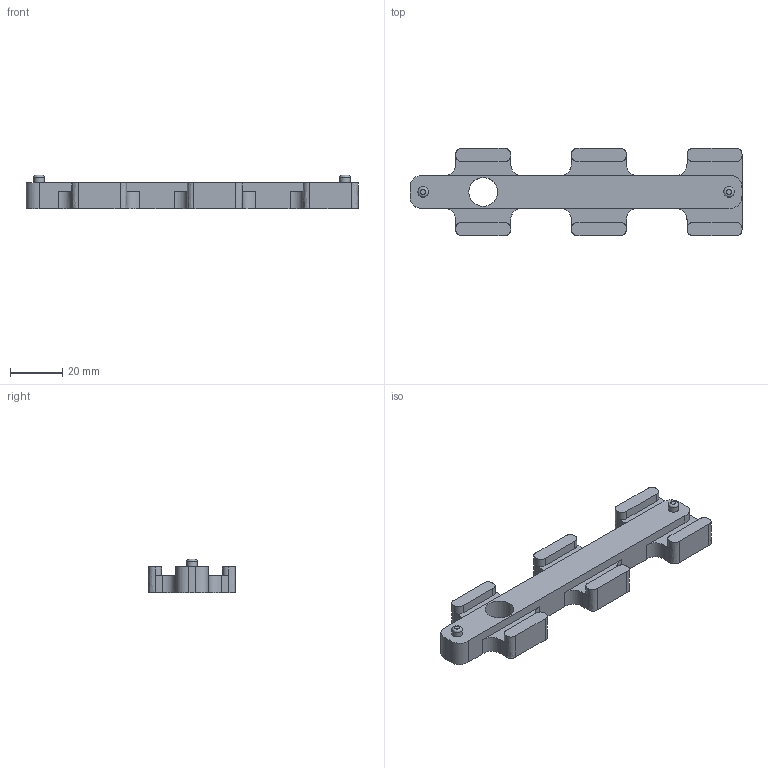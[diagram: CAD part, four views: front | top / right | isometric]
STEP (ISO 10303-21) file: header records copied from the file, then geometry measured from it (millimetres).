
FILE_DESCRIPTION(/* description */ ('STEP AP242 Edition 2','CAx-IF Rec.Pracs.---Representation and Presentation of Product Manufacturing Information (PMI)---4.0---2014-10-13','CAx-IF Rec.Pracs.---3D Tessellated Geometry---0.4---2014-09-14','2;1','CAx-IF Rec.Pracs.---User Defined Attributes---1.5---2016-08-15'),/* implementation_level */ '2;1');
FILE_NAME(/* name */ 'Part Studio 1 - FrontJig',/* time_stamp */ '2026-05-25T22:13:32Z',/* author */ (''),/* organization */ (''),/* preprocessor_version */ 'ST-DEVELOPER v20',/* originating_system */ 'ONSHAPE BY PTC INC, 1.215',/* authorisation */ ' ');
FILE_SCHEMA (('AP242_MANAGED_MODEL_BASED_3D_ENGINEERING_MIM_LF { 1 0 10303 442 3 1 4 }'));
Length unit declared in the file: metre
Products named in the file (1): FrontJig
Bounding box: 127 x 33.3 x 13 mm (x, y, z)
Volume: 25773.4 mm3; surface area: 10439.9 mm2
Topology: 1 solids, 1 shells, 130 faces, 343 edges, 217 vertices
Faces by surface type: plane 83, bspline 40, cone 4, cylinder 3
Full cylindrical faces by diameter (mm): 4 x2, 11 x1
Entity records: 5505 total; most frequent: CARTESIAN_POINT 2740, ORIENTED_EDGE 676, DIRECTION 367, EDGE_CURVE 338, VERTEX_POINT 217, B_SPLINE_CURVE_WITH_KNOTS 164, LINE 163, VECTOR 163
